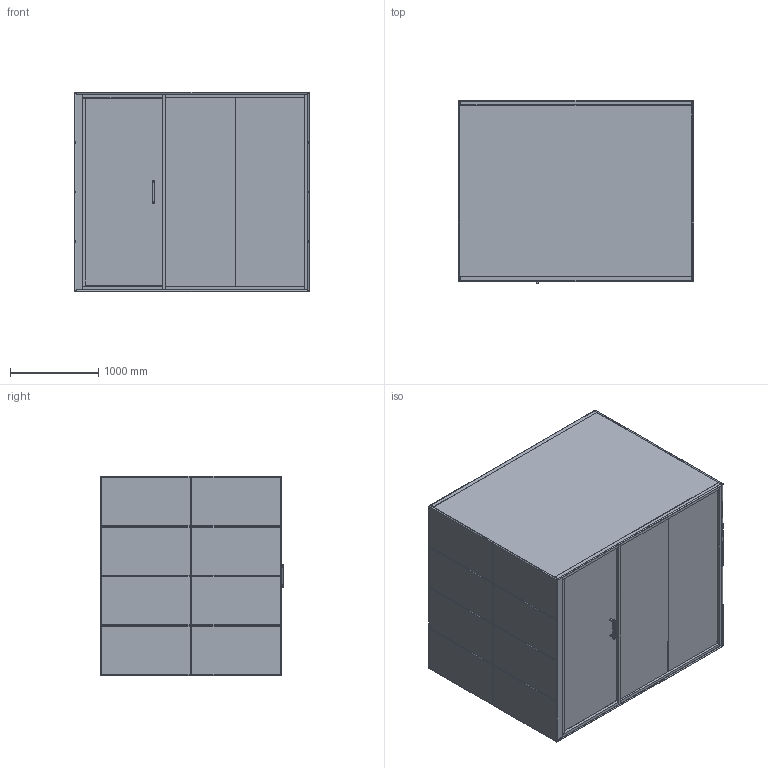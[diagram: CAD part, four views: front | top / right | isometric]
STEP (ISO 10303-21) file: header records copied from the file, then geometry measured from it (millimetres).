
FILE_DESCRIPTION(/* description */ ('','CAx-IF Rec.Pracs.---Representation and Presentation of Product Manufacturing Information (PMI)---4.0---2014-10-13'),/* implementation_level */ '2;1');
FILE_NAME(/* name */ 'SUMMIT4_step.step',/* time_stamp */ '2024-11-29T12:32:17+01:00',/* author */ (''),/* organization */ (''),/* preprocessor_version */ 'ST-DEVELOPER v20',/* originating_system */ 'Autodesk Translation Framework v13.20.0.188',/* authorisation */ '');
FILE_SCHEMA (('AP242_MANAGED_MODEL_BASED_3D_ENGINEERING_MIM_LF { 1 0 10303 442 1 1 4 }'));
Length unit declared in the file: millimetre
Products named in the file (89): GEN4_SPOT_EXPORT_FINAL_linie; Sestava_1; GEN4_SUMMIT4_EXPORT_FINAL_FBX v3; Podlaha - sestava (2); Component263; Strop - sestava (2); Component264; Obklady IN - sestava (2); Component204; Component203; Component201; Component202; Component101; Obklady EX - sestava (3); MEET obklady EX sestava v6; MEET_OBKLAD EX_LEM v5; SINGL Lem v4(Mirror) (3); Component2(Mirror) (1) (1) (3); MEET_OBKLAD EX_LEM v5 (1); LATKA (8); CALL,TALK2,MEET_OBKLAD EX v45 (5); Obklad EX v7  (7); CALL,TALK2,MEET_OBKLAD EX v45 (1) (2); Obklad EX v7  (1) (4); CALL,TALK2,MEET_OBKLAD EX v45 (2) (2); Obklad EX v7  (2) (4); CALL,TALK2,MEET_OBKLAD EX v45 (3) (2); Obklad EX v7  (3) (4); CALL,TALK2,MEET_OBKLAD EX v45 (4) (1); CALL,TALK2,MEET_OBKLAD EX v45 (5) (1); CALL,TALK2,MEET_OBKLAD EX v45 (6); CALL,TALK2,MEET_OBKLAD EX v45 (7); Latka (1) (4); Obklad EX v7  (4) (1); Obklad EX v7  (5) (1); Obklad EX v7  (6) (1); Obklad EX v7  (7) (1); Component2(Mirror) (2) (2); Frame_01; 5.1-SUG4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
Assembly tree (129 placements, depth 8):
  GEN4_SPOT_EXPORT_FINAL_linie
    Sestava_1
      GEN4_SUMMIT4_EXPORT_FINAL_FBX v3
        Podlaha - sestava (2)
          Component263
        Strop - sestava (2)
          Component264
        Obklady IN - sestava (2)
          Component201  x4
          Component202  x8
          Component203  x4
          Component204  x4
          Component101
        Obklady EX - sestava (3)
          MEET obklady EX sestava v6
            MEET_OBKLAD EX_LEM v5
              LATKA (8)
            SINGL Lem v4(Mirror) (3)
              Component2(Mirror) (1) (1) (3)  x2
            MEET_OBKLAD EX_LEM v5 (1)
              LATKA (8)
            CALL,TALK2,MEET_OBKLAD EX v45 (5)
              Latka (1) (4)
            Obklad EX v7  (7)
              Component2(Mirror) (2) (2)
            CALL,TALK2,MEET_OBKLAD EX v45 (1) (2)
              Latka (1) (4)
            Obklad EX v7  (1) (4)
              Component2(Mirror) (2) (2)
            CALL,TALK2,MEET_OBKLAD EX v45 (2) (2)
              Latka (1) (4)
            Obklad EX v7  (2) (4)
              Component2(Mirror) (2) (2)
            CALL,TALK2,MEET_OBKLAD EX v45 (3) (2)
              Latka (1) (4)
            Obklad EX v7  (3) (4)
              Component2(Mirror) (2) (2)
            CALL,TALK2,MEET_OBKLAD EX v45 (4) (1)
              Latka (1) (4)
            CALL,TALK2,MEET_OBKLAD EX v45 (5) (1)
              Latka (1) (4)
            CALL,TALK2,MEET_OBKLAD EX v45 (6)
              Latka (1) (4)
            CALL,TALK2,MEET_OBKLAD EX v45 (7)
              Latka (1) (4)
            Obklad EX v7  (4) (1)
              Component2(Mirror) (2) (2)
            Obklad EX v7  (5) (1)
              Component2(Mirror) (2) (2)
            Obklad EX v7  (6) (1)
              Component2(Mirror) (2) (2)
            Obklad EX v7  (7) (1)
              Component2(Mirror) (2) (2)
        Frame_01
          5.1-SUG4
          5.2-SUG4
          5.3-SUG4
          5.4-SUG4
          5.5-SUG4
          5.6-SUG4
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Bounding box: 2676 x 2085 x 2266 mm (x, y, z)
Volume: 1055496579.6 mm3; surface area: 129260996.7 mm2
Topology: 100 solids, 105 shells, 1920 faces, 4414 edges, 2774 vertices
Faces by surface type: plane 1027, cylinder 581, sphere 159, bspline 78, cone 46, torus 29
Full cylindrical faces by diameter (mm): 4 x6, 5.3 x3, 5.65 x6, 6 x6, 7 x8, 8 x3, 8.3 x3, 10 x2, 12 x2, 20 x6, 36 x6, 44.12 x6, 44.266 x3, 44.8 x3, 44.87 x3, 45.2 x3, 45.27 x3, 70 x2, 76 x2
Entity records: 32207 total; most frequent: CARTESIAN_POINT 10121, DIRECTION 4436, ORIENTED_EDGE 3968, EDGE_CURVE 1984, AXIS2_PLACEMENT_3D 1574, LINE 1288, VECTOR 1288, VERTEX_POINT 1272
